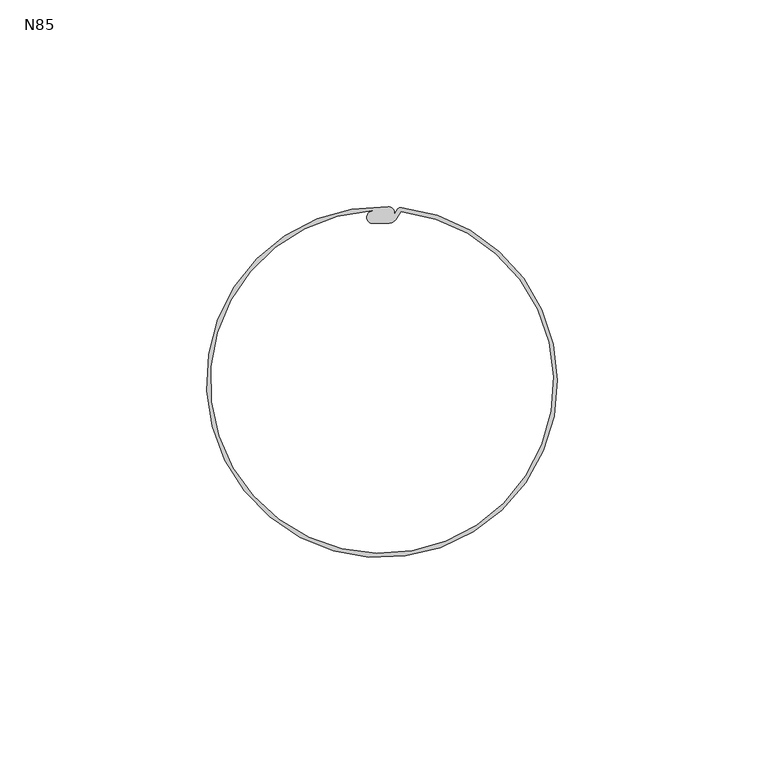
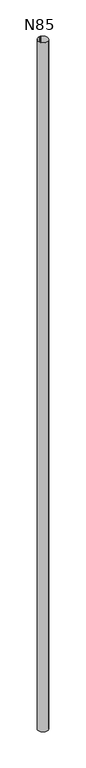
"""IFC4 building model written with IfcOpenShell, lengths in millimetres: proxy geometry, GROVIK_Downpipe_Straight_Vertical : N85."""

import ifcopenshell
import ifcopenshell.guid

model = None  # the IFC model being written
_history = None  # IfcOwnerHistory: only IFC2X3 demands one
_inside = {}  # id of a spatial element -> (the spatial element, [elements in it])
_under = {}  # id of a project, library or spatial element -> (it, [spatial elements below it])
_declared = {}  # id of a project -> (the project, [libraries it declares])
_typed = {}  # id of a type object -> (the type object, [elements of that type])
_made_of = {}  # id of a material, layer set ... -> (it, [elements and type objects made of it])


def new_model(schema):
    """Start an empty IFC model of exactly this schema.

    Asked for "IFC4X3", IfcOpenShell would pick the latest addendum, in which some entities
    have other attributes; the version numbers below select the first issue.
    IFC2X3 requires an IfcOwnerHistory on every rooted entity: one is made here for all.
    """
    global model, _history
    if schema == "IFC4X3":
        model = ifcopenshell.file(schema_version=(4, 3, 0, 0))
    else:
        model = ifcopenshell.file(schema=schema)
    _inside.clear()
    _under.clear()
    _declared.clear()
    _typed.clear()
    _made_of.clear()
    _history = None
    if model.schema == "IFC2X3":
        org = make("IfcOrganization", Name="unknown")
        user = make(
            "IfcPersonAndOrganization",
            ThePerson=make("IfcPerson", FamilyName="unknown"),
            TheOrganization=org,
        )
        app = make(
            "IfcApplication",
            ApplicationDeveloper=org,
            Version="unknown",
            ApplicationFullName="unknown",
            ApplicationIdentifier="unknown",
        )
        _history = make(
            "IfcOwnerHistory",
            OwningUser=user,
            OwningApplication=app,
            ChangeAction="ADDED",
            CreationDate=0,
        )
    return model


def make(cls, **values):
    """One entity of the class cls with the attributes given. An attribute that is None is left unset."""
    return model.create_entity(
        cls, **{name: value for name, value in values.items() if value is not None}
    )


def rooted(cls, **values):
    """An entity with a GlobalId (a new one), such as an element, a storey or a relation."""
    return make(cls, GlobalId=ifcopenshell.guid.new(), OwnerHistory=_history, **values)


def si_unit(unit_type, name, prefix=None):
    """IfcSIUnit, for example si_unit("LENGTHUNIT", "METRE", prefix="MILLI")."""
    return make("IfcSIUnit", UnitType=unit_type, Prefix=prefix, Name=name)


def assignment(units):
    """IfcUnitAssignment: the units of a project."""
    return None if units is None else make("IfcUnitAssignment", Units=units)


def point(xyz):
    """IfcCartesianPoint."""
    return None if xyz is None else make("IfcCartesianPoint", Coordinates=xyz)


def direction(xyz):
    """IfcDirection."""
    return None if xyz is None else make("IfcDirection", DirectionRatios=xyz)


def frame(location, z_axis=None, x_axis=None):
    """IfcAxis2Placement3D, a coordinate frame: its origin and axes. An axis left out is left unset."""
    return make(
        "IfcAxis2Placement3D",
        Location=point(location),
        Axis=direction(z_axis),
        RefDirection=direction(x_axis),
    )


def origin():
    """The frame at (0, 0, 0) with its axes left unset."""
    return frame((0.0, 0.0, 0.0))


def place(relative_to, where):
    """IfcLocalPlacement: puts the frame where relative to a parent placement (None: the world)."""
    return make(
        "IfcLocalPlacement", PlacementRelTo=relative_to, RelativePlacement=where
    )


def context(
    kind, dimensions, precision=None, world=None, true_north=None, identifier=None
):
    """IfcGeometricRepresentationContext, for example the 3D "Model" context."""
    return make(
        "IfcGeometricRepresentationContext",
        ContextIdentifier=identifier,
        ContextType=kind,
        CoordinateSpaceDimension=dimensions,
        Precision=precision,
        WorldCoordinateSystem=world,
        TrueNorth=true_north,
    )


def project(units=None, contexts=None):
    """IfcProject with its units and contexts."""
    return rooted(
        "IfcProject",
        Name="project",
        RepresentationContexts=contexts,
        UnitsInContext=assignment(units),
    )


def spatial(cls, under=None, at=None, **own):
    """A site, building, storey or space (cls), placed at a placement, below another one or the project."""
    s = rooted(cls, ObjectPlacement=at, **own)
    if under is not None:
        _under.setdefault(under.id(), (under, []))[1].append(s)
    return s


def polyline(points):
    """IfcPolyline through the points."""
    return make("IfcPolyline", Points=[point(p) for p in points])


def circle_curve(where, radius):
    """IfcCircle in the frame where."""
    return make("IfcCircle", Position=where, Radius=radius)


def shape(context_of_items, identifier, shape_type, items):
    """IfcShapeRepresentation: the items that make up one representation, for example the "Body"."""
    return make(
        "IfcShapeRepresentation",
        ContextOfItems=context_of_items,
        RepresentationIdentifier=identifier,
        RepresentationType=shape_type,
        Items=items,
    )


def source(mapping_origin, context_of_items, identifier, shape_type, items):
    """IfcRepresentationMap: a shape defined once, which mapped items show again and again."""
    return make(
        "IfcRepresentationMap",
        MappingOrigin=mapping_origin,
        MappedRepresentation=shape(context_of_items, identifier, shape_type, items),
    )


def transform(
    local_origin,
    x_axis=None,
    y_axis=None,
    z_axis=None,
    scale=None,
    scale2=None,
    scale3=None,
    uniform=True,
):
    """IfcCartesianTransformationOperator3D, or its non-uniform kind. x_axis, y_axis, z_axis: its Axis1, 2, 3."""
    if uniform:
        return make(
            "IfcCartesianTransformationOperator3D",
            Axis1=direction(x_axis),
            Axis2=direction(y_axis),
            LocalOrigin=point(local_origin),
            Scale=scale,
            Axis3=direction(z_axis),
        )
    return make(
        "IfcCartesianTransformationOperator3DnonUniform",
        Axis1=direction(x_axis),
        Axis2=direction(y_axis),
        LocalOrigin=point(local_origin),
        Scale=scale,
        Axis3=direction(z_axis),
        Scale2=scale2,
        Scale3=scale3,
    )


def mapped(mapping_source, mapping_target):
    """IfcMappedItem: shows the shape of a source again, moved by a transform."""
    return make(
        "IfcMappedItem", MappingSource=mapping_source, MappingTarget=mapping_target
    )


def made_of(thing, what):
    """Note that an element or type object is made of a material, layer set ...; save() writes the relation."""
    if what is not None:
        _made_of.setdefault(what.id(), (what, []))[1].append(thing)
    return thing


def element(
    cls,
    number,
    at=None,
    inside=None,
    cuts=None,
    type_object=None,
    material=None,
    context=None,
    identifier="Body",
    shape_type=None,
    held_by="IfcProductDefinitionShape",
    body=None,
    shapes=None,
    **own,
):
    """One element of the class cls, such as IfcWall. Its Tag is "e" and its number.

    at: its placement. inside: the storey or other place that contains it. cuts: it is an
    opening in that element (IfcRelVoidsElement). A single representation is given by context,
    identifier, shape_type and body (its items); several are given by shapes. held_by: the class
    of the entity that holds the representations. save() writes the other relations.
    """
    e = rooted(cls, Tag="e%d" % number, ObjectPlacement=at, **own)
    if body is not None:
        shapes = [shape(context, identifier, shape_type, body)]
    if shapes is not None:
        e.Representation = make(held_by, Representations=shapes)
    if inside is not None:
        _inside.setdefault(inside.id(), (inside, []))[1].append(e)
    if cuts is not None:
        rooted(
            "IfcRelVoidsElement", RelatingBuildingElement=cuts, RelatedOpeningElement=e
        )
    if type_object is not None:
        _typed.setdefault(type_object.id(), (type_object, []))[1].append(e)
    return made_of(e, material)


def aggregate(whole, parts):
    """IfcRelAggregates: a whole, such as a stair, and the parts it consists of."""
    return rooted("IfcRelAggregates", RelatingObject=whole, RelatedObjects=parts)


def save(model, path):
    """Write the relations noted so far, then the file.

    IfcRelAggregates (storeys below a building ...), IfcRelContainedInSpatialStructure (elements
    in a storey), IfcRelDefinesByType, IfcRelAssociatesMaterial and IfcRelDeclares: one each for
    every whole, place, type object, material and project.
    """
    for whole, parts in _under.values():
        aggregate(whole, parts)
    for where, things in _inside.values():
        rooted(
            "IfcRelContainedInSpatialStructure",
            RelatedElements=things,
            RelatingStructure=where,
        )
    for kind, things in _typed.values():
        rooted("IfcRelDefinesByType", RelatedObjects=things, RelatingType=kind)
    for what, things in _made_of.values():
        rooted("IfcRelAssociatesMaterial", RelatedObjects=things, RelatingMaterial=what)
    for by, libraries in _declared.values():
        rooted("IfcRelDeclares", RelatingContext=by, RelatedDefinitions=libraries)
    model.write(path)


def plane_surface(at):
    """IfcPlane: the flat surface through the origin of the frame at, square to its z axis."""
    return make("IfcPlane", Position=at)


def cylinder_surface(at, radius):
    """IfcCylindricalSurface: all points at the distance radius from the z axis of the frame at."""
    return make("IfcCylindricalSurface", Position=at, Radius=radius)


def revolved_surface(curve, axis_point, axis_direction):
    """IfcSurfaceOfRevolution: the curve turned about the line through axis_point along axis_direction."""
    return make(
        "IfcSurfaceOfRevolution",
        SweptCurve=make("IfcArbitraryOpenProfileDef", ProfileType="CURVE", Curve=curve),
        AxisPosition=make("IfcAxis1Placement", Location=point(axis_point), Axis=direction(axis_direction)),
    )


def advanced_brep(points, edges, surfaces, faces):
    """IfcAdvancedBrep: a solid bounded by faces that lie on surfaces and meet in shared edges.

    An edge is (start, end): straight between two places in points (the first is 0);
    or (start, end, curve); or (start, end, curve, False) where it runs against its curve.
    A face is (place in surfaces, loops), or (place, loops, False) where it looks against
    its surface's normal. A loop lists edges by number (the first is 1), with a minus sign
    where the edge is run from its end to its start. The first loop is the outer one.
    """
    corners = [point(p) for p in points]
    vertices = [make("IfcVertexPoint", VertexGeometry=c) for c in corners]
    made = []
    for start, end, *more in edges:
        made.append(
            make(
                "IfcEdgeCurve",
                EdgeStart=vertices[start],
                EdgeEnd=vertices[end],
                EdgeGeometry=more[0] if more else make("IfcPolyline", Points=[corners[start], corners[end]]),
                SameSense=more[1] if len(more) > 1 else True,
            )
        )
    hull = []
    for where, loops, *sense in faces:
        bounds = []
        for j, loop in enumerate(loops):
            ring = [make("IfcOrientedEdge", EdgeElement=made[abs(k) - 1], Orientation=k > 0) for k in loop]
            bounds.append(
                make(
                    "IfcFaceOuterBound" if j == 0 else "IfcFaceBound",
                    Bound=make("IfcEdgeLoop", EdgeList=ring),
                    Orientation=True,
                )
            )
        hull.append(make("IfcAdvancedFace", Bounds=bounds, FaceSurface=surfaces[where], SameSense=sense[0] if sense else True))
    return make("IfcAdvancedBrep", Outer=make("IfcClosedShell", CfsFaces=hull))


def n85_52668073(model_context):
    return source(origin(), model_context, "Body", "AdvancedBrep", [
        advanced_brep(
        [(4.7799116, 42.2303498, -100.0), (3.8941646, 41.9052634, -100.0), (2.8, 40.1056788, -100.0), (1.5, 42.4735212, -100.0), (4.6586072, 41.2376937, -100.0), (-2.286461, 41.4369653, -100.0), (-2.2, 38.3056788, -100.0), (1.4, 38.3056788, -100.0), (3.6663266, 39.6056788, -100.0), (4.7799116, 42.2303498, -6200.0), (1.5, 42.4735212, -6200.0), (2.8, 40.1056788, -6200.0), (3.8941646, 41.9052634, -6200.0), (4.6586072, 41.2376937, -6200.0), (3.6663266, 39.6056788, -6200.0), (1.4, 38.3056788, -6200.0), (-2.2, 38.3056788, -6200.0), (-2.2861899, 41.4320515, -6200.0)],
        [
            (0, 1, circle_curve(frame((4.6614631, 41.1838618, -100.0), z_axis=(0.0, 0.0, 1.0), x_axis=(1.0, 0.0, 0.0)), 1.0531701)),
            (1, 2),
            (2, 3, circle_curve(frame((1.4323114, 40.8955724, -100.0), z_axis=(0.0, 0.0, 1.0), x_axis=(1.0, 0.0, 0.0)), 1.5793999)),
            (3, 0, circle_curve(frame((0.0, 0.0, -100.0), z_axis=(0.0, 0.0, 1.0), x_axis=(1.0, 0.0, 0.0)), 42.5)),
            (4, 5, circle_curve(frame((0.0, 0.0, -100.0), z_axis=(0.0, 0.0, -1.0), x_axis=(1.0, 0.0, 0.0)), 41.5)),
            (5, 6, circle_curve(frame((-2.2, 39.8700532, -100.0), z_axis=(0.0, 0.0, 1.0), x_axis=(1.0, 0.0, 0.0)), 1.5643744)),
            (6, 7),
            (7, 8, circle_curve(frame((1.3537816, 41.0117282, -100.0), z_axis=(0.0, 0.0, 1.0), x_axis=(1.0, 0.0, 0.0)), 2.7064441)),
            (8, 4),
            (9, 10, circle_curve(frame((0.0, 0.0, -6200.0), z_axis=(0.0, 0.0, -1.0), x_axis=(1.0, 0.0, 0.0)), 42.5)),
            (10, 11, circle_curve(frame((1.4323114, 40.8955724, -6200.0), z_axis=(0.0, 0.0, -1.0), x_axis=(1.0, 0.0, 0.0)), 1.5793999)),
            (11, 12),
            (12, 9, circle_curve(frame((4.6614631, 41.1838618, -6200.0), z_axis=(0.0, 0.0, -1.0), x_axis=(1.0, 0.0, 0.0)), 1.0531701)),
            (13, 14),
            (14, 15, circle_curve(frame((1.3537816, 41.0117282, -6200.0), z_axis=(0.0, 0.0, -1.0), x_axis=(1.0, 0.0, 0.0)), 2.7064441)),
            (15, 16),
            (16, 17, circle_curve(frame((-2.2, 39.8700532, -6200.0), z_axis=(0.0, 0.0, -1.0), x_axis=(1.0, 0.0, 0.0)), 1.5643744)),
            (17, 13, circle_curve(frame((0.0, 0.0, -6200.0), z_axis=(0.0, 0.0, 1.0), x_axis=(1.0, 0.0, 0.0)), 41.5)),
            (4, 13),
            (17, 5),
            (16, 6),
            (15, 7),
            (14, 8),
            (0, 9),
            (12, 1),
            (11, 2),
            (10, 3),
        ],
        [
            plane_surface(frame((0.0, 0.0, -100.0), z_axis=(0.0, 0.0, 1.0), x_axis=(0.0, -1.0, 0.0))),
            plane_surface(frame((0.0, 0.0, -6200.0), z_axis=(0.0, 0.0, -1.0), x_axis=(0.0, -1.0, 0.0))),
            revolved_surface(polyline([(41.5, 0.0, -6200.0), (41.5, 0.0, -100.0)]), (0.0, 0.0, -100.0), (0.0, 0.0, -1.0)),
            cylinder_surface(frame((-2.2, 39.8700532, -100.0), z_axis=(0.0, 0.0, 1.0), x_axis=(1.0, 0.0, 0.0)), 1.5643744),
            plane_surface(frame((-2.2, 38.3056788, -100.0), z_axis=(0.0, -1.0, 0.0), x_axis=(0.0, 0.0, -1.0))),
            cylinder_surface(frame((1.3537816, 41.0117282, -100.0), z_axis=(0.0, 0.0, 1.0), x_axis=(1.0, 0.0, 0.0)), 2.7064441),
            plane_surface(frame((3.6663266, 39.6056788, -100.0), z_axis=(0.8544588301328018, -0.5195191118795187, 0.0), x_axis=(0.0, 0.0, -1.0))),
            cylinder_surface(frame((4.6614631, 41.1838618, -100.0), z_axis=(0.0, 0.0, 1.0), x_axis=(1.0, 0.0, 0.0)), 1.0531701),
            plane_surface(frame((3.8941646, 41.9052634, -100.0), z_axis=(-0.8544588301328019, 0.5195191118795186, 0.0), x_axis=(0.0, 0.0, -1.0))),
            cylinder_surface(frame((1.4323114, 40.8955724, -100.0), z_axis=(0.0, 0.0, 1.0), x_axis=(1.0, 0.0, 0.0)), 1.5793999),
            cylinder_surface(frame((0.0, 0.0, -100.0), z_axis=(0.0, 0.0, 1.0), x_axis=(1.0, 0.0, 0.0)), 42.5),
        ],
        [
            (0, [[1, 2, 3, 4], [5, 6, 7, 8, 9]]),
            (1, [[10, 11, 12, 13], [14, 15, 16, 17, 18]]),
            (2, [[-5, 19, -18, 20]]),
            (3, [[-6, -20, -17, 21]]),
            (4, [[-7, -21, -16, 22]]),
            (5, [[-8, -22, -15, 23]]),
            (6, [[-9, -23, -14, -19]]),
            (7, [[-1, 24, -13, 25]]),
            (8, [[-2, -25, -12, 26]]),
            (9, [[-3, -26, -11, 27]]),
            (10, [[-4, -27, -10, -24]]),
        ],
    ),
    ])


if __name__ == "__main__":
    model = new_model("IFC4")
    model_context = context("Model", 3, world=origin())
    ifc_project = project(units=[si_unit("LENGTHUNIT", "METRE", prefix="MILLI")], contexts=[model_context])
    site = spatial("IfcSite", under=ifc_project)
    building = spatial("IfcBuilding", under=site)
    placement = place(None, origin())
    n85_shape = n85_52668073(model_context)
    element("IfcBuildingElementProxy", 1, Name="GROVIK_Downpipe_Straight_Vertical : N85", ObjectType="GROVIK_Downpipe_Straight_Vertical : N85", at=placement, inside=building, context=model_context, shape_type="MappedRepresentation", body=[
        mapped(n85_shape, transform((0.0, 0.0, 0.0), x_axis=(1.0, 0.0, 0.0), y_axis=(0.0, 1.0, 0.0), z_axis=(0.0, 0.0, 1.0))),
    ])
    save(model, "model.ifc")
